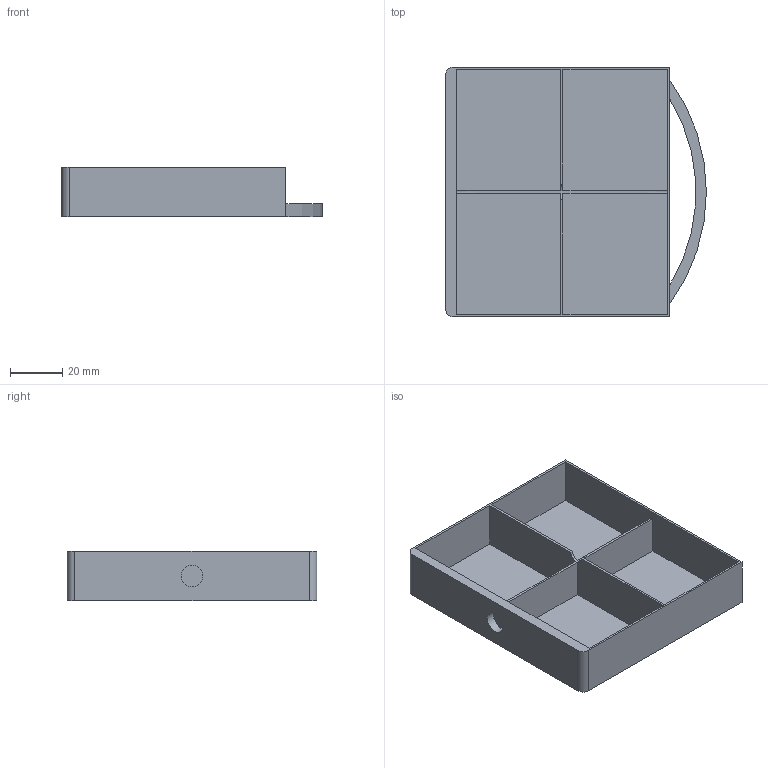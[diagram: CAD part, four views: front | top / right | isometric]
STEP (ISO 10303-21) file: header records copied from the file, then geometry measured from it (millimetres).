
FILE_DESCRIPTION(/* description */ (''),/* implementation_level */ '2;1');
FILE_NAME(/* name */ 'C:/Users/pet3r/Desktop/3D/MOJE/My Drawers/STEP/Drawer 2x1 4-slot.step',/* time_stamp */ '2018-03-31T21:34:09+02:00',/* author */ (''),/* organization */ (''),/* preprocessor_version */ 'ST-DEVELOPER v16.13',/* originating_system */ 'Autodesk Translation Framework v6.5.0.72',/* authorisation */ '');
FILE_SCHEMA (('AUTOMOTIVE_DESIGN { 1 0 10303 214 3 1 1 }'));
Length unit declared in the file: millimetre
Products named in the file (1): Drawer 2x1 4-slot
Bounding box: 100 x 95.8 x 19 mm (x, y, z)
Volume: 22587.4 mm3; surface area: 36900.4 mm2
Topology: 1 solids, 1 shells, 32 faces, 87 edges, 58 vertices
Faces by surface type: plane 26, cylinder 6
Full cylindrical faces by diameter (mm): 8.3 x1
Entity records: 1051 total; most frequent: CARTESIAN_POINT 178, ORIENTED_EDGE 174, DIRECTION 169, EDGE_CURVE 87, LINE 71, VECTOR 71, VERTEX_POINT 58, AXIS2_PLACEMENT_3D 49
